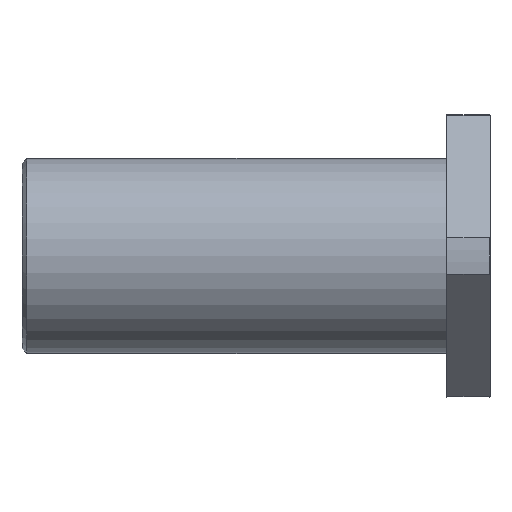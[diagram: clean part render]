
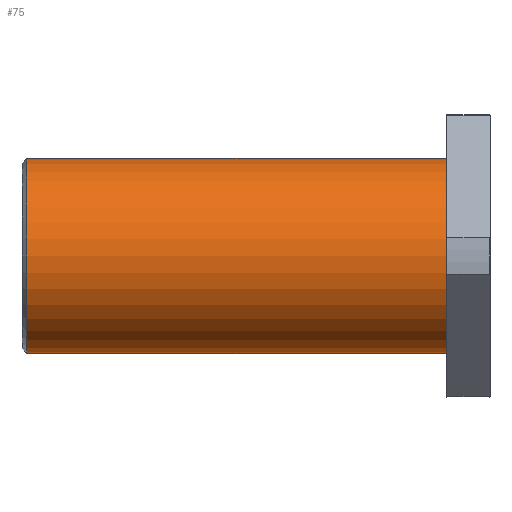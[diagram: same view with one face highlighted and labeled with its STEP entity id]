
A CAD part, front view. The second image highlights one B-rep face of the part: STEP entity #75.
In plain terms, the highlighted cylindrical face has radius 40 mm (diameter 80 mm), a full revolution.
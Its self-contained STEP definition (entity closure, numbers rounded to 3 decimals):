
#75=ADVANCED_FACE('',(#110,#111),#112,.T.);
#110=FACE_OUTER_BOUND('',#204,.T.);
#111=FACE_OUTER_BOUND('',#205,.T.);
#112=CYLINDRICAL_SURFACE('',#206,40.0);
#204=EDGE_LOOP('',(#298));
#205=EDGE_LOOP('',(#299));
#206=AXIS2_PLACEMENT_3D('',#300,#301,#302);
#298=ORIENTED_EDGE('',*,*,#538,.F.);
#299=ORIENTED_EDGE('',*,*,#539,.F.);
#300=CARTESIAN_POINT('',(-18.0,0.,0.0));
#301=DIRECTION('',(1.0,-0.0,-0.0));
#302=DIRECTION('',(0.0,0.0,1.0));
#538=EDGE_CURVE('',#607,#607,#608,.T.);
#539=EDGE_CURVE('',#609,#609,#610,.T.);
#607=VERTEX_POINT('',#729);
#608=CIRCLE('',#730,40.0);
#609=VERTEX_POINT('',#731);
#610=CIRCLE('',#732,40.0);
#729=CARTESIAN_POINT('',(-18.0,0.,-40.0));
#730=AXIS2_PLACEMENT_3D('',#915,#916,#917);
#731=CARTESIAN_POINT('',(-190.0,0.,40.0));
#732=AXIS2_PLACEMENT_3D('',#918,#919,#920);
#915=CARTESIAN_POINT('',(-18.0,0.,0.0));
#916=DIRECTION('',(1.0,0.0,0.0));
#917=DIRECTION('',(0.0,0.0,-1.0));
#918=CARTESIAN_POINT('',(-190.0,0.,0.0));
#919=DIRECTION('',(-1.0,0.0,0.0));
#920=DIRECTION('',(0.0,0.0,1.0));
